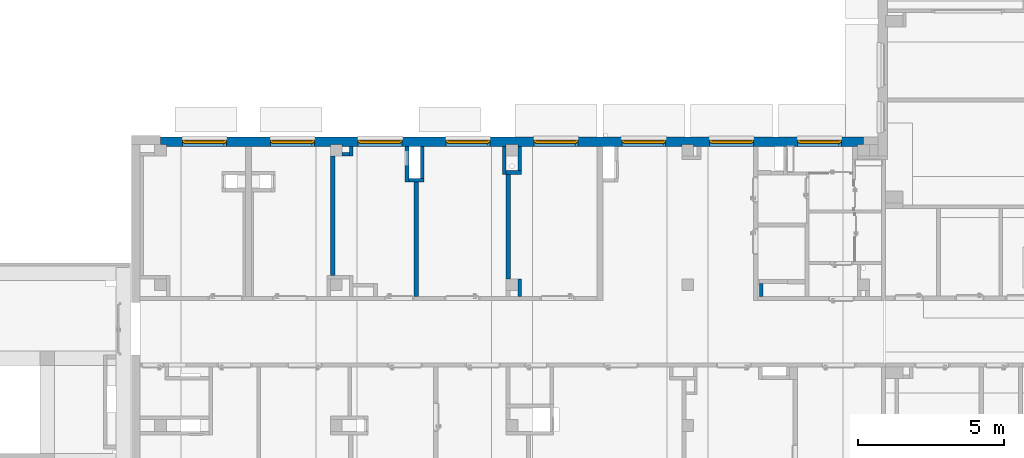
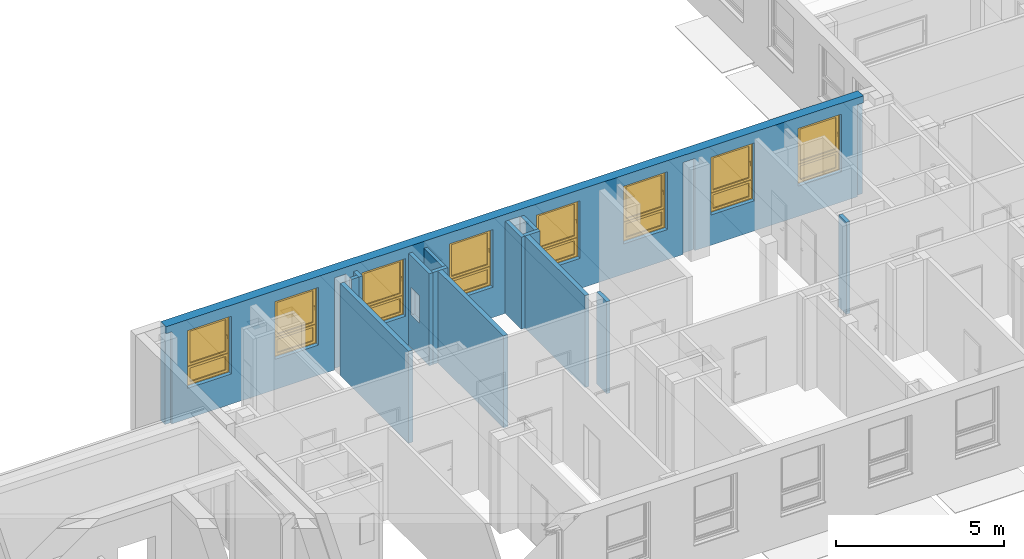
# One storey, part 24 of 140: 14 walls, 8 windows, 9 openings.
"""IFC4 building model written with IfcOpenShell, lengths in metres."""

from ifc_helpers import new_model, entity, si_unit, converted_unit, derived_unit, frame, frame_2d, origin, origin_with_axes, place, context, subcontext, project, spatial, polyline, rectangle, outline, extrude, clip, bounded_halfspace, closed_shell, open_shell, surface_model, source, transform, mapped, material, layer, layer_set, layer_usage, element, fill, save


model = new_model("IFC4")

# Units and contexts
model_context = context("Model", 3, precision=1e-05, world=origin())
body_context = subcontext(model_context, "Body", "Model", "MODEL_VIEW")
ifc_project = project(units=[si_unit("LENGTHUNIT", "METRE"), si_unit("AREAUNIT", "SQUARE_METRE"), si_unit("VOLUMEUNIT", "CUBIC_METRE"), si_unit("MASSUNIT", "GRAM", prefix="KILO"), converted_unit("PLANEANGLEUNIT", "DEGREE", entity("IfcPlaneAngleMeasure", 0.0174532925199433), si_unit("PLANEANGLEUNIT", "RADIAN"), dimensions=[0, 0, 0, 0, 0, 0, 0]), derived_unit("THERMALTRANSMITTANCEUNIT", [(si_unit("POWERUNIT", "WATT"), 1), (si_unit("THERMODYNAMICTEMPERATUREUNIT", "KELVIN"), -1), (si_unit("LENGTHUNIT", "METRE"), -2)]), derived_unit("VOLUMETRICFLOWRATEUNIT", [(si_unit("LENGTHUNIT", "METRE"), 3), (converted_unit("TIMEUNIT", "hour", entity("IfcTimeMeasure", 3600.0), si_unit("TIMEUNIT", "SECOND"), dimensions=[0, 0, 1, 0, 0, 0, 0]), -1), (si_unit("LENGTHUNIT", "METRE"), -1)])], contexts=[model_context])

# Site, building, storey
site_placement = place(None, origin())
site = spatial("IfcSite", under=ifc_project, at=site_placement, Name="3. ASŘ", CompositionType="ELEMENT")
building_placement = place(site_placement, origin())
building = spatial("IfcBuilding", under=site, at=building_placement, Name="Pavilon C", CompositionType="ELEMENT")
storey_placement = place(building_placement, origin())
storey = spatial("IfcBuildingStorey", under=building, at=storey_placement, Name="Půdorys 1.NP", CompositionType="ELEMENT", Elevation=0.0)

# Wall, openings, windows
ifc_material_1 = material(Name="ZELEZOBETONOVÁ KCE")
ifc_layer_1 = layer(ifc_material_1, 0.32)
ifc_layer_set_1 = layer_set([ifc_layer_1])
ifc_layer_usage_1 = layer_usage(ifc_layer_set_1, "AXIS2", "POSITIVE", 0.0)
wall_1_placement = place(storey_placement, frame((24.0, 15.25, -0.1), z_axis=(0.0, 0.0, 1.0), x_axis=(-1.0, 0.0, 0.0)))
wall_1 = element("IfcWall", 1, at=wall_1_placement, inside=storey, material=ifc_layer_usage_1, Name="ZELEZOBETONOVÁ KCE", context=body_context, shape_type="Clipping", body=[
    clip(clip(clip(clip(clip(extrude(rectangle(XDim=24.0, YDim=0.32, at=frame_2d((12.0, 0.16), x_axis=(1.0, 0.0))), origin_with_axes(), (0.0, 0.0, 1.0), 3.6), bounded_halfspace(frame((23.9, 0.285000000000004, 3.35), z_axis=(0.0, 0.0, 1.0), x_axis=(1.0, 0.0, 0.0)), True, origin_with_axes(), polyline([(23.8, 0.250000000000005), (24.0, 0.250000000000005), (24.0, 0.32), (23.8, 0.320000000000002), (23.8, 0.250000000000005)]))), bounded_halfspace(frame((0.0999999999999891, 0.285000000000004, 3.35), z_axis=(0.0, 0.0, 1.0), x_axis=(1.0, 0.0, 0.0)), True, origin_with_axes(), polyline([(-3.63797880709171e-15, 0.250000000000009), (0.199999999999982, 0.250000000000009), (0.199999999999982, 0.320000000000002), (-3.63797880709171e-15, 0.32), (-3.63797880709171e-15, 0.250000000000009)]))), bounded_halfspace(frame((12.0, 0.285000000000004, 3.35), z_axis=(0.0, 0.0, 1.0), x_axis=(1.0, 0.0, 0.0)), True, origin_with_axes(), polyline([(11.8, 0.250000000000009), (12.2, 0.250000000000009), (12.2, 0.32), (11.8, 0.32), (11.8, 0.250000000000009)]))), bounded_halfspace(frame((18.0, 0.285000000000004, 3.35), z_axis=(0.0, 0.0, 1.0), x_axis=(1.0, 0.0, 0.0)), True, origin_with_axes(), polyline([(17.8, 0.250000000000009), (18.2, 0.250000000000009), (18.2, 0.32), (17.8, 0.32), (17.8, 0.250000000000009)]))), bounded_halfspace(frame((5.99999999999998, 0.285000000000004, 3.35), z_axis=(0.0, 0.0, 1.0), x_axis=(1.0, 0.0, 0.0)), True, origin_with_axes(), polyline([(5.79999999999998, 0.250000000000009), (6.19999999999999, 0.250000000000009), (6.19999999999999, 0.32), (5.79999999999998, 0.32), (5.79999999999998, 0.250000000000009)]))),
])
opening_1_placement = place(wall_1_placement, frame((0.750000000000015, 0.0, 1.1), z_axis=(0.0, 1.0, 0.0), x_axis=(0.0, 0.0, 1.0)))
opening_1 = element("IfcOpeningElement", 2, at=opening_1_placement, cuts=wall_1, Name="Okenní otvor", ObjectType="Opening", context=body_context, shape_type="SweptSolid", body=[
    extrude(outline(polyline([(0.0, 1.5), (2.1, 1.5), (2.1, 0.0), (0.0, 0.0), (0.0, 1.5)])), origin_with_axes(), (0.0, 0.0, 1.0), 0.32),
])
opening_2_placement = place(wall_1_placement, frame((3.75000000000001, 0.0, 1.1), z_axis=(0.0, 1.0, 0.0), x_axis=(0.0, 0.0, 1.0)))
opening_2 = element("IfcOpeningElement", 3, at=opening_2_placement, cuts=wall_1, Name="Okenní otvor", ObjectType="Opening", context=body_context, shape_type="SweptSolid", body=[
    extrude(outline(polyline([(0.0, 1.5), (2.1, 1.5), (2.1, 0.0), (0.0, 0.0), (0.0, 1.5)])), origin_with_axes(), (0.0, 0.0, 1.0), 0.32),
])
opening_3_placement = place(wall_1_placement, frame((6.75000000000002, 0.0, 1.1), z_axis=(0.0, 1.0, 0.0), x_axis=(0.0, 0.0, 1.0)))
opening_3 = element("IfcOpeningElement", 4, at=opening_3_placement, cuts=wall_1, Name="Okenní otvor", ObjectType="Opening", context=body_context, shape_type="SweptSolid", body=[
    extrude(outline(polyline([(0.0, 1.5), (2.1, 1.5), (2.1, 0.0), (0.0, 0.0), (0.0, 1.5)])), origin_with_axes(), (0.0, 0.0, 1.0), 0.32),
])
opening_4_placement = place(wall_1_placement, frame((9.75000000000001, 0.0, 1.1), z_axis=(0.0, 1.0, 0.0), x_axis=(0.0, 0.0, 1.0)))
opening_4 = element("IfcOpeningElement", 5, at=opening_4_placement, cuts=wall_1, Name="Okenní otvor", ObjectType="Opening", context=body_context, shape_type="SweptSolid", body=[
    extrude(outline(polyline([(0.0, 1.5), (2.1, 1.5), (2.1, 0.0), (0.0, 0.0), (0.0, 1.5)])), origin_with_axes(), (0.0, 0.0, 1.0), 0.32),
])
opening_5_placement = place(wall_1_placement, frame((15.75, 0.0, 1.1), z_axis=(0.0, 1.0, 0.0), x_axis=(0.0, 0.0, 1.0)))
opening_5 = element("IfcOpeningElement", 6, at=opening_5_placement, cuts=wall_1, Name="Okenní otvor", ObjectType="Opening", context=body_context, shape_type="SweptSolid", body=[
    extrude(outline(polyline([(0.0, 1.5), (2.1, 1.5), (2.1, 0.0), (0.0, 0.0), (0.0, 1.5)])), origin_with_axes(), (0.0, 0.0, 1.0), 0.32),
])
opening_6_placement = place(wall_1_placement, frame((18.75, 0.0, 1.1), z_axis=(0.0, 1.0, 0.0), x_axis=(0.0, 0.0, 1.0)))
opening_6 = element("IfcOpeningElement", 7, at=opening_6_placement, cuts=wall_1, Name="Okenní otvor", ObjectType="Opening", context=body_context, shape_type="SweptSolid", body=[
    extrude(outline(polyline([(0.0, 1.5), (2.1, 1.5), (2.1, 0.0), (0.0, 0.0), (0.0, 1.5)])), origin_with_axes(), (0.0, 0.0, 1.0), 0.32),
])
opening_7_placement = place(wall_1_placement, frame((21.75, 0.0, 1.1), z_axis=(0.0, 1.0, 0.0), x_axis=(0.0, 0.0, 1.0)))
opening_7 = element("IfcOpeningElement", 8, at=opening_7_placement, cuts=wall_1, Name="Okenní otvor", ObjectType="Opening", context=body_context, shape_type="SweptSolid", body=[
    extrude(outline(polyline([(0.0, 1.5), (2.1, 1.5), (2.1, 0.0), (0.0, 0.0), (0.0, 1.5)])), origin_with_axes(), (0.0, 0.0, 1.0), 0.32),
])
opening_8_placement = place(wall_1_placement, frame((12.75, 0.0, 1.1), z_axis=(0.0, 1.0, 0.0), x_axis=(0.0, 0.0, 1.0)))
opening_8 = element("IfcOpeningElement", 9, at=opening_8_placement, cuts=wall_1, Name="Okenní otvor", ObjectType="Opening", context=body_context, shape_type="SweptSolid", body=[
    extrude(outline(polyline([(0.0, 1.5), (2.1, 1.5), (2.1, 0.0), (0.0, 0.0), (0.0, 1.5)])), origin_with_axes(), (0.0, 0.0, 1.0), 0.32),
])
shared_shape = source(origin_with_axes(), body_context, "Body", "SurfaceModel", [
    surface_model("IfcShellBasedSurfaceModel", [(0.0, 0.182, 2.1), (0.0, 0.182, -5.63337527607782e-18), (0.08, 0.182, -5.63337527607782e-18), (0.08, 0.182, 2.1), (0.0, 0.0899999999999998, 5.63337527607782e-18), (0.0, 0.0900000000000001, 2.1), (0.08, 0.0900000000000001, 2.1), (0.08, 0.0899999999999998, 5.63337527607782e-18)], [closed_shell([[[0, 1, 2, 3]], [[4, 5, 6, 7]], [[1, 0, 5, 4]], [[2, 1, 4, 7]], [[3, 2, 7, 6]], [[0, 3, 6, 5]]], orient=[[False], [False], [False], [False], [False], [False]])]),
    surface_model("IfcShellBasedSurfaceModel", [(1.42, 0.182, 2.1), (1.42, 0.182, -5.63337527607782e-18), (1.5, 0.182, -5.63337527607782e-18), (1.5, 0.182, 2.1), (1.42, 0.0899999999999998, 5.63337527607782e-18), (1.42, 0.0900000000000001, 2.1), (1.5, 0.0900000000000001, 2.1), (1.5, 0.0899999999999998, 5.63337527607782e-18)], [closed_shell([[[0, 1, 2, 3]], [[4, 5, 6, 7]], [[1, 0, 5, 4]], [[2, 1, 4, 7]], [[3, 2, 7, 6]], [[0, 3, 6, 5]]], orient=[[False], [False], [False], [False], [False], [False]])]),
    surface_model("IfcShellBasedSurfaceModel", [(0.08, 0.182, 0.08), (0.08, 0.182, -5.63337527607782e-18), (1.42, 0.182, -5.63337527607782e-18), (1.42, 0.182, 0.08), (0.08, 0.0899999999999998, 5.63337527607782e-18), (0.08, 0.0899999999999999, 0.08), (1.42, 0.0899999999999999, 0.08), (1.42, 0.0899999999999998, 5.63337527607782e-18)], [closed_shell([[[0, 1, 2, 3]], [[4, 5, 6, 7]], [[1, 0, 5, 4]], [[2, 1, 4, 7]], [[3, 2, 7, 6]], [[0, 3, 6, 5]]], orient=[[False], [False], [False], [False], [False], [False]])]),
    surface_model("IfcShellBasedSurfaceModel", [(0.08, 0.182, 2.1), (0.08, 0.182, 2.02), (1.42, 0.182, 2.02), (1.42, 0.182, 2.1), (0.08, 0.0900000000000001, 2.02), (0.08, 0.0900000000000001, 2.1), (1.42, 0.0900000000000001, 2.1), (1.42, 0.0900000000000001, 2.02)], [closed_shell([[[0, 1, 2, 3]], [[4, 5, 6, 7]], [[1, 0, 5, 4]], [[2, 1, 4, 7]], [[3, 2, 7, 6]], [[0, 3, 6, 5]]], orient=[[False], [False], [False], [False], [False], [False]])]),
    surface_model("IfcShellBasedSurfaceModel", [(0.08, 0.182, 0.76), (0.08, 0.182, 0.68), (1.42, 0.182, 0.68), (1.42, 0.182, 0.76), (0.08, 0.0899999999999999, 0.68), (0.08, 0.0899999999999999, 0.76), (1.42, 0.0899999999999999, 0.76), (1.42, 0.0899999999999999, 0.68)], [closed_shell([[[0, 1, 2, 3]], [[4, 5, 6, 7]], [[1, 0, 5, 4]], [[2, 1, 4, 7]], [[3, 2, 7, 6]], [[0, 3, 6, 5]]], orient=[[False], [False], [False], [False], [False], [False]])]),
    surface_model("IfcShellBasedSurfaceModel", [(0.05, 0.145, 0.71), (0.05, 0.145, 0.05), (0.13, 0.145, 0.05), (0.13, 0.145, 0.71), (0.05, 0.0599999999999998, 0.05), (0.05, 0.0599999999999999, 0.71), (0.13, 0.0599999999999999, 0.71), (0.13, 0.0599999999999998, 0.05)], [closed_shell([[[0, 1, 2, 3]], [[4, 5, 6, 7]], [[1, 0, 5, 4]], [[2, 1, 4, 7]], [[3, 2, 7, 6]], [[0, 3, 6, 5]]], orient=[[False], [False], [False], [False], [False], [False]])]),
    surface_model("IfcShellBasedSurfaceModel", [(1.37, 0.145, 0.71), (1.37, 0.145, 0.05), (1.45, 0.145, 0.05), (1.45, 0.145, 0.71), (1.37, 0.0599999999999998, 0.05), (1.37, 0.0599999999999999, 0.71), (1.45, 0.0599999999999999, 0.71), (1.45, 0.0599999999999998, 0.05)], [closed_shell([[[0, 1, 2, 3]], [[4, 5, 6, 7]], [[1, 0, 5, 4]], [[2, 1, 4, 7]], [[3, 2, 7, 6]], [[0, 3, 6, 5]]], orient=[[False], [False], [False], [False], [False], [False]])]),
    surface_model("IfcShellBasedSurfaceModel", [(0.13, 0.145, 0.13), (0.13, 0.145, 0.05), (1.37, 0.145, 0.05), (1.37, 0.145, 0.13), (0.13, 0.0599999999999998, 0.05), (0.13, 0.0599999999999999, 0.13), (1.37, 0.0599999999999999, 0.13), (1.37, 0.0599999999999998, 0.05)], [closed_shell([[[0, 1, 2, 3]], [[4, 5, 6, 7]], [[1, 0, 5, 4]], [[2, 1, 4, 7]], [[3, 2, 7, 6]], [[0, 3, 6, 5]]], orient=[[False], [False], [False], [False], [False], [False]])]),
    surface_model("IfcShellBasedSurfaceModel", [(0.13, 0.145, 0.71), (0.13, 0.145, 0.63), (1.37, 0.145, 0.63), (1.37, 0.145, 0.71), (0.13, 0.0599999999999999, 0.63), (0.13, 0.0599999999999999, 0.71), (1.37, 0.0599999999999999, 0.71), (1.37, 0.0599999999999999, 0.63)], [closed_shell([[[0, 1, 2, 3]], [[4, 5, 6, 7]], [[1, 0, 5, 4]], [[2, 1, 4, 7]], [[3, 2, 7, 6]], [[0, 3, 6, 5]]], orient=[[False], [False], [False], [False], [False], [False]])]),
    surface_model("IfcShellBasedSurfaceModel", [(0.05, 0.145, 2.05), (0.05, 0.145, 0.73), (0.13, 0.145, 0.73), (0.13, 0.145, 2.05), (0.05, 0.0599999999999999, 0.73), (0.05, 0.0600000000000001, 2.05), (0.13, 0.0600000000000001, 2.05), (0.13, 0.0599999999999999, 0.73)], [closed_shell([[[0, 1, 2, 3]], [[4, 5, 6, 7]], [[1, 0, 5, 4]], [[2, 1, 4, 7]], [[3, 2, 7, 6]], [[0, 3, 6, 5]]], orient=[[False], [False], [False], [False], [False], [False]])]),
    surface_model("IfcShellBasedSurfaceModel", [(1.37, 0.145, 2.05), (1.37, 0.145, 0.73), (1.45, 0.145, 0.73), (1.45, 0.145, 2.05), (1.37, 0.0599999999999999, 0.73), (1.37, 0.0600000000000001, 2.05), (1.45, 0.0600000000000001, 2.05), (1.45, 0.0599999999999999, 0.73)], [closed_shell([[[0, 1, 2, 3]], [[4, 5, 6, 7]], [[1, 0, 5, 4]], [[2, 1, 4, 7]], [[3, 2, 7, 6]], [[0, 3, 6, 5]]], orient=[[False], [False], [False], [False], [False], [False]])]),
    surface_model("IfcShellBasedSurfaceModel", [(0.13, 0.145, 0.81), (0.13, 0.145, 0.73), (1.37, 0.145, 0.73), (1.37, 0.145, 0.81), (0.13, 0.0599999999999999, 0.73), (0.13, 0.0599999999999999, 0.81), (1.37, 0.0599999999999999, 0.81), (1.37, 0.0599999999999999, 0.73)], [closed_shell([[[0, 1, 2, 3]], [[4, 5, 6, 7]], [[1, 0, 5, 4]], [[2, 1, 4, 7]], [[3, 2, 7, 6]], [[0, 3, 6, 5]]], orient=[[False], [False], [False], [False], [False], [False]])]),
    surface_model("IfcShellBasedSurfaceModel", [(0.13, 0.145, 2.05), (0.13, 0.145, 1.97), (1.37, 0.145, 1.97), (1.37, 0.145, 2.05), (0.13, 0.0600000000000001, 1.97), (0.13, 0.0600000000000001, 2.05), (1.37, 0.0600000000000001, 2.05), (1.37, 0.0600000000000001, 1.97)], [closed_shell([[[0, 1, 2, 3]], [[4, 5, 6, 7]], [[1, 0, 5, 4]], [[2, 1, 4, 7]], [[3, 2, 7, 6]], [[0, 3, 6, 5]]], orient=[[False], [False], [False], [False], [False], [False]])]),
    surface_model("IfcShellBasedSurfaceModel", [(0.0775, 0.06, 1.41), (0.0775, 0.06, 1.37), (0.1025, 0.06, 1.37), (0.1025, 0.06, 1.41), (0.0775, 0.05, 1.37), (0.0775, 0.05, 1.41), (0.1025, 0.05, 1.41), (0.1025, 0.05, 1.37)], [closed_shell([[[0, 1, 2, 3]], [[4, 5, 6, 7]], [[1, 0, 5, 4]], [[2, 1, 4, 7]], [[3, 2, 7, 6]], [[0, 3, 6, 5]]], orient=[[False], [False], [False], [False], [False], [False]])]),
    surface_model("IfcShellBasedSurfaceModel", [(0.1, 0.05, 1.39), (0.0986602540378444, 0.05, 1.395), (0.095, 0.05, 1.39866025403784), (0.09, 0.05, 1.4), (0.085, 0.05, 1.39866025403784), (0.0813397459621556, 0.05, 1.395), (0.08, 0.05, 1.39), (0.0813397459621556, 0.05, 1.385), (0.085, 0.05, 1.38133974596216), (0.09, 0.05, 1.38), (0.095, 0.05, 1.38133974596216), (0.0986602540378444, 0.05, 1.385), (0.1, 0.01, 1.39), (0.0986602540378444, 0.00500000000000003, 1.395), (0.095, 0.00133974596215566, 1.39866025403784), (0.09, 2.8421709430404e-17, 1.4), (0.085, 0.00133974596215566, 1.39866025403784), (0.0813397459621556, 0.00500000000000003, 1.395), (0.08, 0.01, 1.39), (0.0813397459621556, 0.015, 1.385), (0.085, 0.0186602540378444, 1.38133974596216), (0.09, 0.02, 1.38), (0.095, 0.0186602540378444, 1.38133974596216), (0.0986602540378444, 0.015, 1.385), (0.1, 0.01, 1.275), (0.0986602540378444, 0.005, 1.275), (0.095, 0.00133974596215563, 1.275), (0.09, 0.0, 1.275), (0.085, 0.00133974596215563, 1.275), (0.0813397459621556, 0.005, 1.275), (0.08, 0.01, 1.275), (0.0813397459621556, 0.015, 1.275), (0.085, 0.0186602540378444, 1.275), (0.09, 0.02, 1.275), (0.095, 0.0186602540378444, 1.275), (0.0986602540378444, 0.015, 1.275)], [open_shell([[[0, 1, 2, 3, 4, 5, 6, 7, 8, 9, 10, 11]], [[0, 12, 13, 1]], [[1, 13, 14, 2]], [[2, 14, 15, 3]], [[3, 15, 16, 4]], [[4, 16, 17, 5]], [[5, 17, 18, 6]], [[6, 18, 19, 7]], [[7, 19, 20, 8]], [[8, 20, 21, 9]], [[9, 21, 22, 10]], [[10, 22, 23, 11]], [[11, 23, 12, 0]], [[12, 24, 25, 13]], [[13, 25, 26, 14]], [[14, 26, 27, 15]], [[15, 27, 28, 16]], [[16, 28, 29, 17]], [[17, 29, 30, 18]], [[18, 30, 31, 19]], [[19, 31, 32, 20]], [[20, 32, 33, 21]], [[21, 33, 34, 22]], [[22, 34, 35, 23]], [[23, 35, 24, 12]]], orient=[[False], [False], [False], [False], [False], [False], [False], [False], [False], [False], [False], [False], [False], [False], [False], [False], [False], [False], [False], [False], [False], [False], [False], [False], [False]])]),
    surface_model("IfcShellBasedSurfaceModel", [(0.13, 0.1025, 0.13), (1.37, 0.1025, 0.13), (1.37, 0.1025, 0.63), (0.13, 0.1025, 0.63)], [open_shell([[[0, 1, 2, 3]]], orient=[[False]])]),
    surface_model("IfcShellBasedSurfaceModel", [(0.13, 0.1025, 0.81), (1.37, 0.1025, 0.81), (1.37, 0.1025, 1.97), (0.13, 0.1025, 1.97)], [open_shell([[[0, 1, 2, 3]]], orient=[[False]])]),
])
window_1_placement = place(opening_1_placement, frame((0.0, 0.0, 0.282000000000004), z_axis=(1.0, 0.0, 0.0), x_axis=(0.0, 1.0, -2.44929359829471e-16)))
window_1 = element("IfcWindow", 10, at=window_1_placement, inside=storey, Name="O06", OverallHeight=2.1, OverallWidth=1.5, PartitioningType="USERDEFINED", PredefinedType="WINDOW", context=body_context, shape_type="MappedRepresentation", body=[
    mapped(shared_shape, transform((0.0, 0.0, 0.0), x_axis=(1.0, 0.0, 0.0), y_axis=(0.0, -1.0, 0.0), z_axis=(0.0, 0.0, 1.0), scale=1.0)),
])
fill(opening_1, window_1)
window_2_placement = place(opening_2_placement, frame((0.0, 0.0, 0.282), z_axis=(1.0, 0.0, 0.0), x_axis=(0.0, 1.0, -2.44929359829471e-16)))
window_2 = element("IfcWindow", 11, at=window_2_placement, inside=storey, Name="O06", OverallHeight=2.1, OverallWidth=1.5, PartitioningType="USERDEFINED", PredefinedType="WINDOW", context=body_context, shape_type="MappedRepresentation", body=[
    mapped(shared_shape, transform((0.0, 0.0, 0.0), x_axis=(1.0, 0.0, 0.0), y_axis=(0.0, -1.0, 0.0), z_axis=(0.0, 0.0, 1.0), scale=1.0)),
])
fill(opening_2, window_2)
window_3_placement = place(opening_3_placement, frame((0.0, 0.0, 0.282), z_axis=(1.0, 0.0, 0.0), x_axis=(0.0, 0.999999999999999, -2.4492935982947e-16)))
window_3 = element("IfcWindow", 12, at=window_3_placement, inside=storey, Name="O06", OverallHeight=2.1, OverallWidth=1.5, PartitioningType="USERDEFINED", PredefinedType="WINDOW", context=body_context, shape_type="MappedRepresentation", body=[
    mapped(shared_shape, transform((0.0, 0.0, 0.0), x_axis=(1.0, 0.0, 0.0), y_axis=(0.0, -1.0, 0.0), z_axis=(0.0, 0.0, 1.0), scale=0.999999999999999)),
])
fill(opening_3, window_3)
window_4_placement = place(opening_4_placement, frame((0.0, 1.81898940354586e-15, 0.282), z_axis=(1.0, 0.0, 0.0), x_axis=(0.0, 1.0, -2.44929359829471e-16)))
window_4 = element("IfcWindow", 13, at=window_4_placement, inside=storey, Name="O06", OverallHeight=2.1, OverallWidth=1.5, PartitioningType="USERDEFINED", PredefinedType="WINDOW", context=body_context, shape_type="MappedRepresentation", body=[
    mapped(shared_shape, transform((0.0, 0.0, 0.0), x_axis=(1.0, 0.0, 0.0), y_axis=(0.0, -1.0, 0.0), z_axis=(0.0, 0.0, 1.0), scale=1.0)),
])
fill(opening_4, window_4)
window_5_placement = place(opening_5_placement, frame((0.0, 1.81898940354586e-15, 0.282000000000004), z_axis=(1.0, 0.0, 0.0), x_axis=(0.0, 1.0, -2.44929359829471e-16)))
window_5 = element("IfcWindow", 14, at=window_5_placement, inside=storey, Name="O06", OverallHeight=2.1, OverallWidth=1.5, PartitioningType="USERDEFINED", PredefinedType="WINDOW", context=body_context, shape_type="MappedRepresentation", body=[
    mapped(shared_shape, transform((0.0, 0.0, 0.0), x_axis=(1.0, 0.0, 0.0), y_axis=(0.0, -1.0, 0.0), z_axis=(0.0, 0.0, 1.0), scale=1.0)),
])
fill(opening_5, window_5)
window_6_placement = place(opening_6_placement, frame((0.0, 2.72848410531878e-15, 0.282), z_axis=(1.0, 0.0, 0.0), x_axis=(0.0, 1.0, -2.44929359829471e-16)))
window_6 = element("IfcWindow", 15, at=window_6_placement, inside=storey, Name="O06", OverallHeight=2.1, OverallWidth=1.5, PartitioningType="USERDEFINED", PredefinedType="WINDOW", context=body_context, shape_type="MappedRepresentation", body=[
    mapped(shared_shape, transform((0.0, 0.0, 0.0), x_axis=(1.0, 0.0, 0.0), y_axis=(0.0, -1.0, 0.0), z_axis=(0.0, 0.0, 1.0), scale=1.0)),
])
fill(opening_6, window_6)
window_7_placement = place(opening_7_placement, frame((0.0, 3.18323145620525e-15, 0.282), z_axis=(1.0, 0.0, 0.0), x_axis=(0.0, 1.0, -2.44929359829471e-16)))
window_7 = element("IfcWindow", 16, at=window_7_placement, inside=storey, Name="O06", OverallHeight=2.1, OverallWidth=1.5, PartitioningType="USERDEFINED", PredefinedType="WINDOW", context=body_context, shape_type="MappedRepresentation", body=[
    mapped(shared_shape, transform((0.0, 0.0, 0.0), x_axis=(1.0, 0.0, 0.0), y_axis=(0.0, -1.0, 0.0), z_axis=(0.0, 0.0, 1.0), scale=1.0)),
])
fill(opening_7, window_7)
window_8_placement = place(opening_8_placement, frame((0.0, 1.81898940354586e-15, 0.282), z_axis=(1.0, 0.0, 0.0), x_axis=(0.0, 1.0, -2.44929359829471e-16)))
window_8 = element("IfcWindow", 17, at=window_8_placement, inside=storey, Name="O06", OverallHeight=2.1, OverallWidth=1.5, PartitioningType="USERDEFINED", PredefinedType="WINDOW", context=body_context, shape_type="MappedRepresentation", body=[
    mapped(shared_shape, transform((0.0, 0.0, 0.0), x_axis=(1.0, 0.0, 0.0), y_axis=(0.0, -1.0, 0.0), z_axis=(0.0, 0.0, 1.0), scale=1.0)),
])
fill(opening_8, window_8)

# Wall, opening
ifc_material_2 = material(Name="ZDIVO Z CDm")
ifc_layer_2 = layer(ifc_material_2, 0.125)
ifc_layer_set_2 = layer_set([ifc_layer_2])
ifc_layer_usage_2 = layer_usage(ifc_layer_set_2, "AXIS2", "POSITIVE", 0.0)
wall_2_placement = place(storey_placement, frame((8.47500000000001, 13.705, -0.1), z_axis=(0.0, 0.0, 1.0), x_axis=(0.0, 1.0, 0.0)))
wall_2 = element("IfcWall", 18, at=wall_2_placement, inside=storey, material=ifc_layer_usage_2, Name="ZDIVO Z CDm", context=body_context, shape_type="SweptSolid", body=[
    extrude(rectangle(XDim=1.22500000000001, YDim=0.125, at=frame_2d((0.612500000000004, 0.0625), x_axis=(1.0, 0.0))), origin_with_axes(), (0.0, 0.0, 1.0), 3.35),
])
opening_9_placement = place(wall_2_placement, frame((1.075, 0.125, 1.2), z_axis=(0.0, -1.0, 0.0), x_axis=(0.0, 0.0, 1.0)))
element("IfcOpeningElement", 19, at=opening_9_placement, cuts=wall_2, Name="Okenní otvor", ObjectType="Opening", context=body_context, shape_type="SweptSolid", body=[
    extrude(outline(polyline([(0.0, 0.5), (1.0, 0.5), (1.0, 0.0), (0.0, 0.0), (0.0, 0.5)])), origin_with_axes(), (0.0, 0.0, 1.0), 0.125),
])

# Walls
ifc_material_3 = material(Name="ZDIVO Z CDm")
ifc_layer_3 = layer(ifc_material_3, 0.125)
ifc_layer_set_3 = layer_set([ifc_layer_3])
ifc_layer_usage_3 = layer_usage(ifc_layer_set_3, "AXIS2", "POSITIVE", 0.0)
wall_3_placement = place(storey_placement, frame((9.00000000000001, 13.83, -0.1), z_axis=(0.0, 0.0, 1.0), x_axis=(-1.0, 0.0, 0.0)))
element("IfcWall", 20, at=wall_3_placement, inside=storey, material=ifc_layer_usage_3, Name="ZDIVO Z CDm", context=body_context, shape_type="SweptSolid", body=[
    extrude(rectangle(XDim=0.525, YDim=0.125, at=frame_2d((0.2625, 0.0625), x_axis=(1.0, 0.0))), origin_with_axes(), (0.0, 0.0, 1.0), 3.35),
])
ifc_material_4 = material(Name="ZDIVO Z CDm")
ifc_layer_4 = layer(ifc_material_4, 0.125)
ifc_layer_set_4 = layer_set([ifc_layer_4])
ifc_layer_usage_4 = layer_usage(ifc_layer_set_4, "AXIS2", "POSITIVE", 0.0)
wall_4_placement = place(storey_placement, frame((8.87500000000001, 14.93, -0.1), z_axis=(0.0, 0.0, 1.0), x_axis=(0.0, -1.0, 0.0)))
element("IfcWall", 21, at=wall_4_placement, inside=storey, material=ifc_layer_usage_4, Name="ZDIVO Z CDm", context=body_context, shape_type="SweptSolid", body=[
    extrude(rectangle(XDim=1.10000000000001, YDim=0.125, at=frame_2d((0.550000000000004, 0.0625), x_axis=(1.0, 0.0))), origin_with_axes(), (0.0, 0.0, 1.0), 3.35),
])
ifc_material_5 = material(Name="YTONG 150")
ifc_layer_5 = layer(ifc_material_5, 0.15)
ifc_layer_set_5 = layer_set([ifc_layer_5])
ifc_layer_usage_5 = layer_usage(ifc_layer_set_5, "AXIS2", "POSITIVE", 0.0)
wall_5_placement = place(storey_placement, frame((5.80000000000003, 14.6, -0.1), z_axis=(0.0, 0.0, 1.0), x_axis=(-2.23188883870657e-16, -1.0, 0.0)))
element("IfcWall", 22, at=wall_5_placement, inside=storey, material=ifc_layer_usage_5, Name="YTONG 150", context=body_context, shape_type="SweptSolid", body=[
    extrude(rectangle(XDim=4.075, YDim=0.15, at=frame_2d((2.0375, 0.075), x_axis=(1.0, 0.0))), origin_with_axes(), (0.0, 0.0, 1.0), 3.35),
])
ifc_material_6 = material(Name="ZDIVO Z CDm")
ifc_layer_6 = layer(ifc_material_6, 0.125)
ifc_layer_set_6 = layer_set([ifc_layer_6])
ifc_layer_usage_6 = layer_usage(ifc_layer_set_6, "AXIS2", "POSITIVE", 0.0)
wall_6_placement = place(storey_placement, frame((6.57500000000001, 14.6, -0.1), z_axis=(0.0, 0.0, 1.0), x_axis=(0.0, 1.0, 0.0)))
element("IfcWall", 23, at=wall_6_placement, inside=storey, material=ifc_layer_usage_6, Name="ZDIVO Z CDm", context=body_context, shape_type="SweptSolid", body=[
    extrude(rectangle(XDim=0.330000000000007, YDim=0.125, at=frame_2d((0.165000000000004, 0.0625), x_axis=(1.0, 0.0))), origin_with_axes(), (0.0, 0.0, 1.0), 3.35),
])
ifc_material_7 = material(Name="ZDIVO Z CDm")
ifc_layer_7 = layer(ifc_material_7, 0.125)
ifc_layer_set_7 = layer_set([ifc_layer_7])
ifc_layer_usage_7 = layer_usage(ifc_layer_set_7, "AXIS2", "POSITIVE", 0.0)
wall_7_placement = place(storey_placement, frame((6.20000000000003, 14.6, -0.1)))
element("IfcWall", 24, at=wall_7_placement, inside=storey, material=ifc_layer_usage_7, Name="ZDIVO Z CDm", context=body_context, shape_type="SweptSolid", body=[
    extrude(rectangle(XDim=0.249999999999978, YDim=0.125, at=frame_2d((0.124999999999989, 0.0625), x_axis=(1.0, 0.0))), origin_with_axes(), (0.0, 0.0, 1.0), 3.35),
])
ifc_material_8 = material(Name="YTONG 150")
ifc_layer_8 = layer(ifc_material_8, 0.15)
ifc_layer_set_8 = layer_set([ifc_layer_8])
ifc_layer_usage_8 = layer_usage(ifc_layer_set_8, "AXIS2", "POSITIVE", 0.0)
wall_8_placement = place(storey_placement, frame((8.65000000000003, 13.705, -0.1), z_axis=(0.0, 0.0, 1.0), x_axis=(0.0, -1.0, 0.0)))
element("IfcWall", 25, at=wall_8_placement, inside=storey, material=ifc_layer_usage_8, Name="YTONG 150", context=body_context, shape_type="SweptSolid", body=[
    extrude(rectangle(XDim=3.905, YDim=0.15, at=frame_2d((1.9525, 0.075), x_axis=(1.0, 0.0))), origin_with_axes(), (0.0, 0.0, 1.0), 3.35),
])
ifc_material_9 = material(Name="ZDIVO Z CDm")
ifc_layer_9 = layer(ifc_material_9, 0.125)
ifc_layer_set_9 = layer_set([ifc_layer_9])
ifc_layer_usage_9 = layer_usage(ifc_layer_set_9, "AXIS2", "POSITIVE", 0.0)
wall_9_placement = place(storey_placement, frame((11.8, 13.975, -0.1), z_axis=(0.0, 0.0, 1.0), x_axis=(0.0, 1.0, 0.0)))
element("IfcWall", 26, at=wall_9_placement, inside=storey, material=ifc_layer_usage_9, Name="ZDIVO Z CDm", context=body_context, shape_type="SweptSolid", body=[
    extrude(rectangle(XDim=0.955000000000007, YDim=0.125, at=frame_2d((0.477500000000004, 0.0625), x_axis=(1.0, 0.0))), origin_with_axes(), (0.0, 0.0, 1.0), 3.35),
])
ifc_material_10 = material(Name="ZDIVO Z CDm")
ifc_layer_10 = layer(ifc_material_10, 0.125)
ifc_layer_set_10 = layer_set([ifc_layer_10])
ifc_layer_usage_10 = layer_usage(ifc_layer_set_10, "AXIS2", "POSITIVE", 0.0)
wall_10_placement = place(storey_placement, frame((12.325, 14.1, -0.1), z_axis=(0.0, 0.0, 1.0), x_axis=(-1.0, 0.0, 0.0)))
element("IfcWall", 27, at=wall_10_placement, inside=storey, material=ifc_layer_usage_10, Name="ZDIVO Z CDm", context=body_context, shape_type="SweptSolid", body=[
    extrude(rectangle(XDim=0.525, YDim=0.125, at=frame_2d((0.2625, 0.0625), x_axis=(1.0, 0.0))), origin_with_axes(), (0.0, 0.0, 1.0), 3.35),
])
ifc_material_11 = material(Name="ZDIVO Z CDm")
ifc_layer_11 = layer(ifc_material_11, 0.125)
ifc_layer_set_11 = layer_set([ifc_layer_11])
ifc_layer_usage_11 = layer_usage(ifc_layer_set_11, "AXIS2", "POSITIVE", 0.0)
wall_11_placement = place(storey_placement, frame((12.2, 14.93, -0.1), z_axis=(0.0, 0.0, 1.0), x_axis=(0.0, -1.0, 0.0)))
element("IfcWall", 28, at=wall_11_placement, inside=storey, material=ifc_layer_usage_11, Name="ZDIVO Z CDm", context=body_context, shape_type="SweptSolid", body=[
    extrude(rectangle(XDim=0.830000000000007, YDim=0.125, at=frame_2d((0.415000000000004, 0.0625), x_axis=(1.0, 0.0))), origin_with_axes(), (0.0, 0.0, 1.0), 3.35),
])
ifc_material_12 = material(Name="YTONG 150")
ifc_layer_12 = layer(ifc_material_12, 0.15)
ifc_layer_set_12 = layer_set([ifc_layer_12])
ifc_layer_usage_12 = layer_usage(ifc_layer_set_12, "AXIS2", "POSITIVE", 0.0)
wall_12_placement = place(storey_placement, frame((11.8, 13.975, -0.1), z_axis=(0.0, 0.0, 1.0), x_axis=(0.0, -1.0, 0.0)))
element("IfcWall", 29, at=wall_12_placement, inside=storey, material=ifc_layer_usage_12, Name="YTONG 150", context=body_context, shape_type="SweptSolid", body=[
    extrude(rectangle(XDim=3.575, YDim=0.15, at=frame_2d((1.7875, 0.075), x_axis=(1.0, 0.0))), origin_with_axes(), (0.0, 0.0, 1.0), 3.35),
])
ifc_material_13 = material(Name="ZDIVO Z CDm")
ifc_layer_13 = layer(ifc_material_13, 0.125)
ifc_layer_set_13 = layer_set([ifc_layer_13])
ifc_layer_usage_13 = layer_usage(ifc_layer_set_13, "AXIS2", "POSITIVE", 0.0)
wall_13_placement = place(storey_placement, frame((12.2, 10.4, -0.1), z_axis=(0.0, 0.0, 1.0), x_axis=(0.0, -1.0, 0.0)))
element("IfcWall", 30, at=wall_13_placement, inside=storey, material=ifc_layer_usage_13, Name="ZDIVO Z CDm", context=body_context, shape_type="SweptSolid", body=[
    extrude(rectangle(XDim=0.599999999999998, YDim=0.125, at=frame_2d((0.299999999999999, 0.0625), x_axis=(1.0, 0.0))), origin_with_axes(), (0.0, 0.0, 1.0), 3.35),
])
ifc_material_14 = material(Name="ZDIVO Z CDm")
ifc_layer_14 = layer(ifc_material_14, 0.125)
ifc_layer_set_14 = layer_set([ifc_layer_14])
ifc_layer_usage_14 = layer_usage(ifc_layer_set_14, "AXIS2", "POSITIVE", 0.0)
wall_14_placement = place(storey_placement, frame((20.575, 9.8, -0.1), z_axis=(0.0, 0.0, 1.0), x_axis=(0.0, 1.0, 0.0)))
element("IfcWall", 31, at=wall_14_placement, inside=storey, material=ifc_layer_usage_14, Name="ZDIVO Z CDm", context=body_context, shape_type="SweptSolid", body=[
    extrude(rectangle(XDim=0.455, YDim=0.125, at=frame_2d((0.2275, 0.0625), x_axis=(1.0, 0.0))), origin_with_axes(), (0.0, 0.0, 1.0), 3.35),
])

save(model, "model.ifc")
